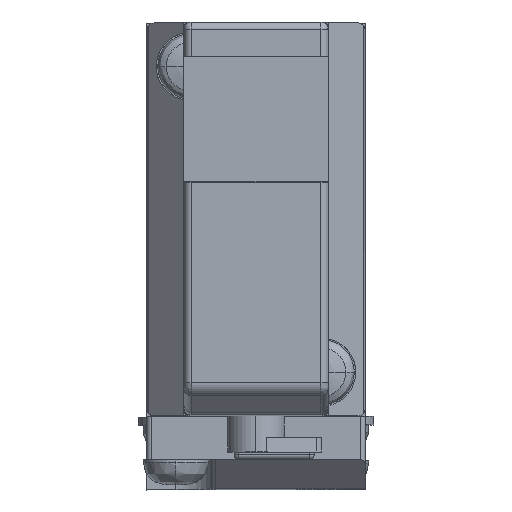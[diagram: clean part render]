
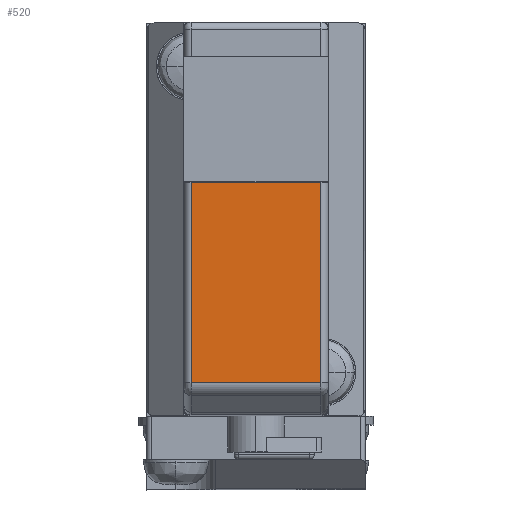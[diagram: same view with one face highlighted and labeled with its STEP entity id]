
A CAD part, top view. The second image highlights one B-rep face of the part: STEP entity #520.
In plain terms, the highlighted planar face has unit normal (0, 0, 1).
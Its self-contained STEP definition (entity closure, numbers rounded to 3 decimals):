
#520=ADVANCED_FACE('',(#2873),#2872,.F.);
#2872=PLANE('',#5332);
#2873=FACE_OUTER_BOUND('',#5333,.T.);
#5329=CARTESIAN_POINT('',(5.34,-26.133,27.4));
#5330=DIRECTION('',(0.,0.,-1.));
#5331=DIRECTION('',(-1.,0.,0.));
#5332=AXIS2_PLACEMENT_3D('',#5329,#5330,#5331);
#5333=EDGE_LOOP('',(#7011,#7012,#7013,#7014));
#7011=ORIENTED_EDGE('',*,*,#7946,.F.);
#7012=ORIENTED_EDGE('',*,*,#8003,.T.);
#7013=ORIENTED_EDGE('',*,*,#8091,.T.);
#7014=ORIENTED_EDGE('',*,*,#8026,.T.);
#7946=EDGE_CURVE('',#11065,#11072,#11073,.T.);
#8003=EDGE_CURVE('',#11065,#11454,#11461,.T.);
#8026=EDGE_CURVE('',#11592,#11072,#11611,.T.);
#8091=EDGE_CURVE('',#11454,#11592,#12037,.T.);
#11065=VERTEX_POINT('',#15314);
#11072=VERTEX_POINT('',#15319);
#11073=LINE('',#15320,#15321);
#11454=VERTEX_POINT('',#15558);
#11461=LINE('',#15563,#15564);
#11592=VERTEX_POINT('',#15646);
#11611=LINE('',#15659,#15660);
#12037=LINE('',#15904,#15905);
#15314=CARTESIAN_POINT('',(-4.45,-11.,27.4));
#15319=CARTESIAN_POINT('',(4.45,-11.,27.4));
#15320=CARTESIAN_POINT('',(-4.45,-11.,27.4));
#15321=VECTOR('',#15322,8.9);
#15322=DIRECTION('',(1.,0.,0.));
#15558=CARTESIAN_POINT('',(-4.45,-24.758,27.4));
#15563=CARTESIAN_POINT('',(-4.45,-11.,27.4));
#15564=VECTOR('',#15565,13.758);
#15565=DIRECTION('',(0.,-1.,0.));
#15646=CARTESIAN_POINT('',(4.45,-24.758,27.4));
#15659=CARTESIAN_POINT('',(4.45,-24.758,27.4));
#15660=VECTOR('',#15661,13.758);
#15661=DIRECTION('',(0.,1.,0.));
#15904=CARTESIAN_POINT('',(-4.45,-24.758,27.4));
#15905=VECTOR('',#15906,8.9);
#15906=DIRECTION('',(1.,0.,0.));
